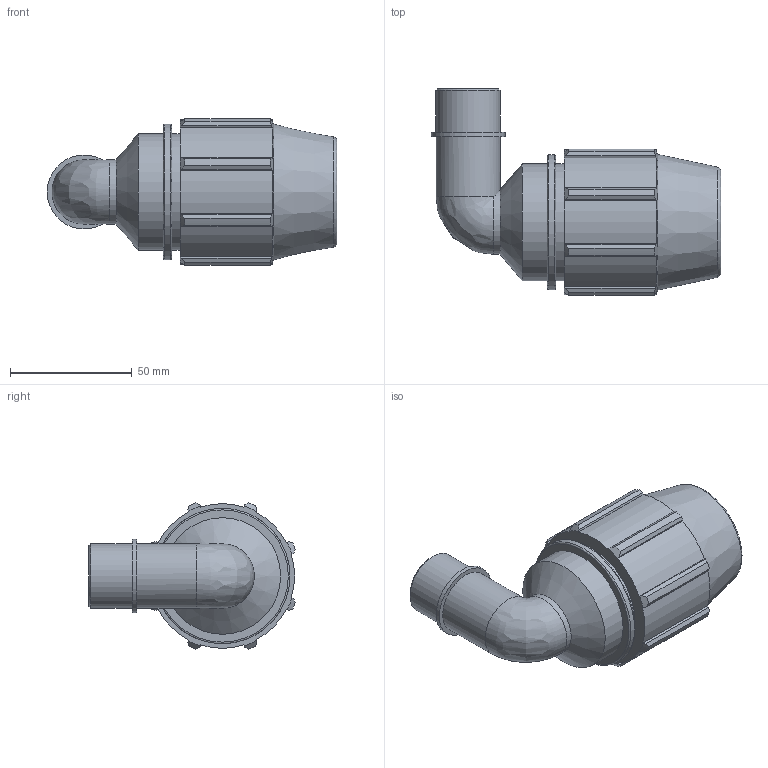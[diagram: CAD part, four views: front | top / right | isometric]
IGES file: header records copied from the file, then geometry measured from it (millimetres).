
Global section: file name: 078500032007__0785060320070A.ipt; native system: Autodesk Inventor 2015; preprocessor: unknown; author: KIM; date: 20170606.133119; units: millimetre
Bounding box: 119.2 x 85.11 x 60.22 mm (x, y, z)
Volume: 162668.8 mm3; surface area: 38365.8 mm2
Topology: 1 solids, 1 shells, 86 faces, 237 edges, 158 vertices
Faces by surface type: plane 41, cylinder 23, cone 12, revolution 9, bspline 1
Full cylindrical faces by diameter (mm): 26.441 x2, 30.407 x1, 48 x2, 55.68 x1
